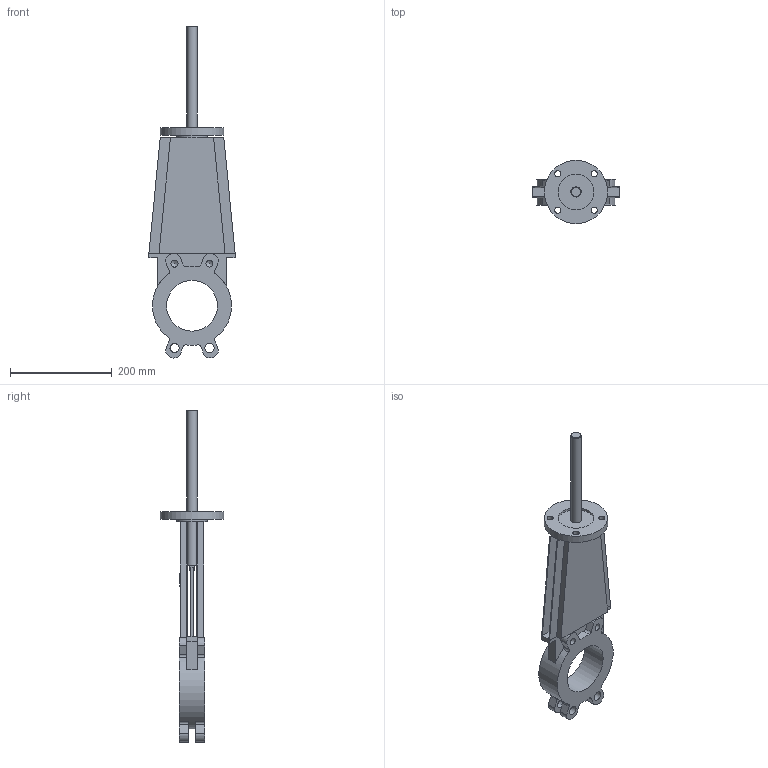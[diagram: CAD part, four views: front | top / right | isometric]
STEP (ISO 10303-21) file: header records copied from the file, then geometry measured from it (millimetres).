
FILE_DESCRIPTION(('STEP AP203'), '1');
FILE_NAME('K51GVA_DN100', '', ('UNSPECIFIED'), ('UNSPECIFIED'), 'ASCON STEP Converter 1.6', 'ASCON Math Kernel', '');
FILE_SCHEMA(('CONFIG_CONTROL_DESIGN'));
Length unit declared in the file: millimetre
Bounding box: 170 x 125 x 653.83 mm (x, y, z)
Volume: 1272828.2 mm3; surface area: 338358.4 mm2
Topology: 1 solids, 1 shells, 155 faces, 434 edges, 281 vertices
Faces by surface type: plane 98, cylinder 52, cone 5
Full cylindrical faces by diameter (mm): 12 x4, 13.835 x4, 18 x4, 20 x2, 60 x1, 70 x1, 100 x1, 125 x1
Entity records: 6158 total; most frequent: DIRECTION 848, CARTESIAN_POINT 840, ORIENTED_EDGE 814, EDGE_CURVE 407, AXIS2_PLACEMENT_3D 285, LINE 278, VECTOR 278, VERTEX_POINT 277
